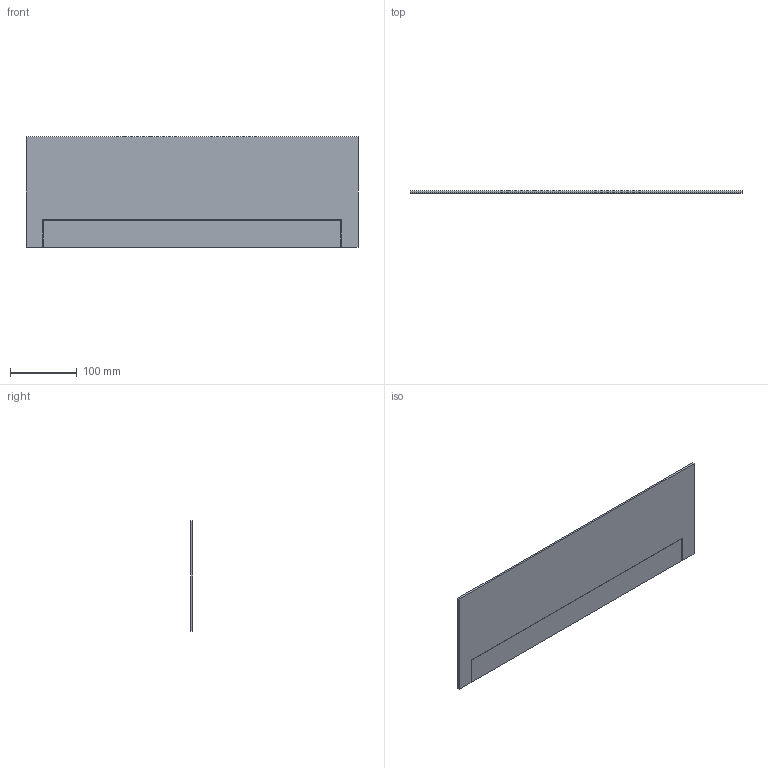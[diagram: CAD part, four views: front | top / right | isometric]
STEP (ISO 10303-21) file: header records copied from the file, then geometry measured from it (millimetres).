
FILE_DESCRIPTION(/* description */ (''),/* implementation_level */ '2;1');
FILE_NAME(/* name */ 'Horizontal Stabilizer v5.step',/* time_stamp */ '2023-09-02T21:56:23+03:00',/* author */ (''),/* organization */ (''),/* preprocessor_version */ 'ST-DEVELOPER v20',/* originating_system */ 'Autodesk Translation Framework v12.9.0.99',/* authorisation */ '');
FILE_SCHEMA (('AUTOMOTIVE_DESIGN { 1 0 10303 214 3 1 1 }'));
Length unit declared in the file: millimetre
Products named in the file (1): Horizontal Stabilizer
Bounding box: 498 x 3 x 166 mm (x, y, z)
Volume: 246416.4 mm3; surface area: 171430.8 mm2
Topology: 2 solids, 2 shells, 16 faces, 36 edges, 24 vertices
Faces by surface type: plane 16
Entity records: 472 total; most frequent: CARTESIAN_POINT 77, ORIENTED_EDGE 72, DIRECTION 70, LINE 36, VECTOR 36, EDGE_CURVE 36, VERTEX_POINT 24, AXIS2_PLACEMENT_3D 17
